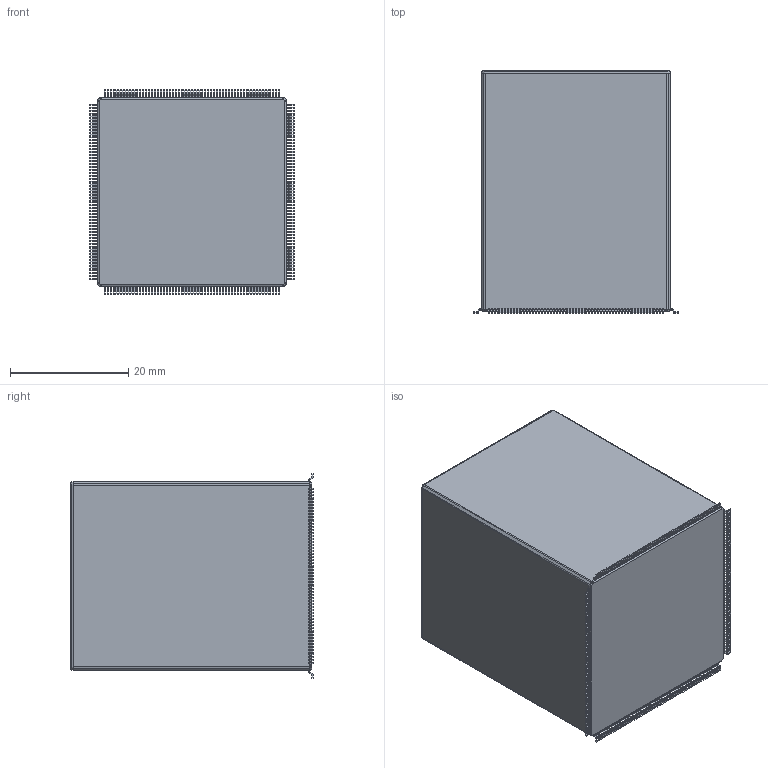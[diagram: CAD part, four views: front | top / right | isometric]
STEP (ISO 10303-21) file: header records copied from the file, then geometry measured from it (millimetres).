
FILE_DESCRIPTION (( 'STEP AP214' ), '1' );
FILE_NAME ( 'QFP50P3460X3460X4100-240.STEP', '2013-09-16T11:05:28', ( '' ), ( '' ), 'FPX Expert 2013', 'PCB Libraries', '' );
FILE_SCHEMA (( 'AUTOMOTIVE_DESIGN' ));
Length unit declared in the file: millimetre
Products named in the file (1): QFP50P3460X3460X4100-240
Bounding box: 34.6 x 41 x 34.6 mm (x, y, z)
Volume: 41699.9 mm3; surface area: 7518.6 mm2
Topology: 241 solids, 241 shells, 3447 faces, 8858 edges, 5878 vertices
Faces by surface type: plane 2427, cylinder 1002, sphere 16, torus 2
Entity records: 114799 total; most frequent: CARTESIAN_POINT 18312, ORIENTED_EDGE 17684, DIRECTION 17666, EDGE_CURVE 8842, VECTOR 6818, LINE 6818, VERTEX_POINT 5878, AXIS2_PLACEMENT_3D 5424
